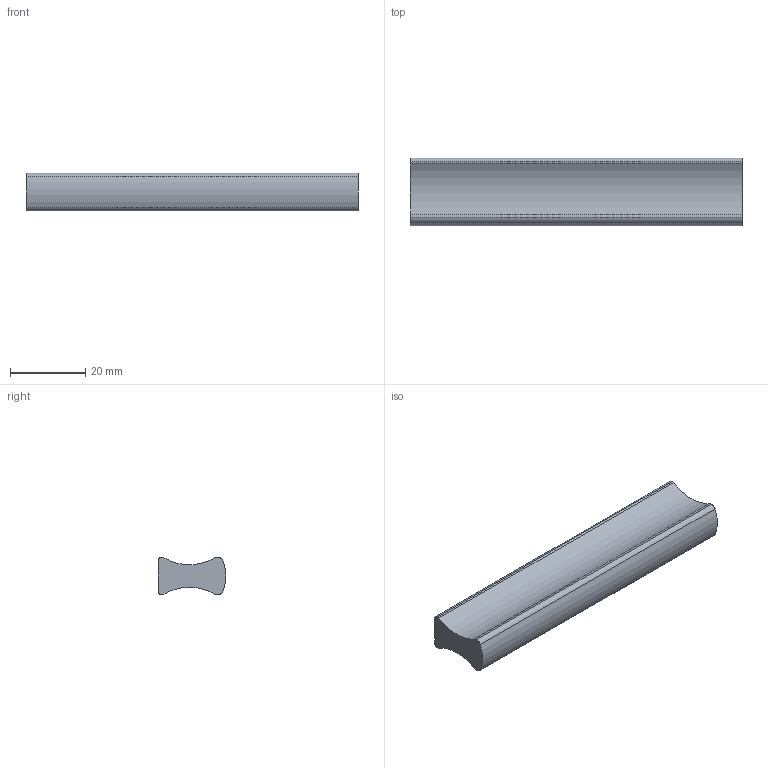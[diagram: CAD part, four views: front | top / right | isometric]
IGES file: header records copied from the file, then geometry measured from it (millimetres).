
Start section: Data from Parasolid IGES Translator 15.0.47, Copyright(c) 2006 Siemens P LM Software. All Rights Reserved.
Global section: file name: 9194367.igs; native system:  By UGS Corp.; preprocessor: XPlus GENERIC/IGES 3.0; author: Noname; organization: Noname; date: 20151216.182333; units: millimetre
Bounding box: 88 x 17.96 x 10 mm (x, y, z)
Surface area: 5225.6 mm2 (no closed solid volume)
Topology: 0 solids, 0 shells, 17 faces, 78 edges, 76 vertices
Faces by surface type: revolution 12, extrusion 5
